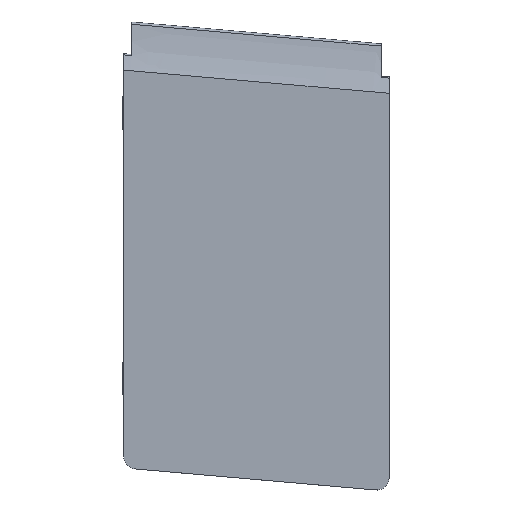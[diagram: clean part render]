
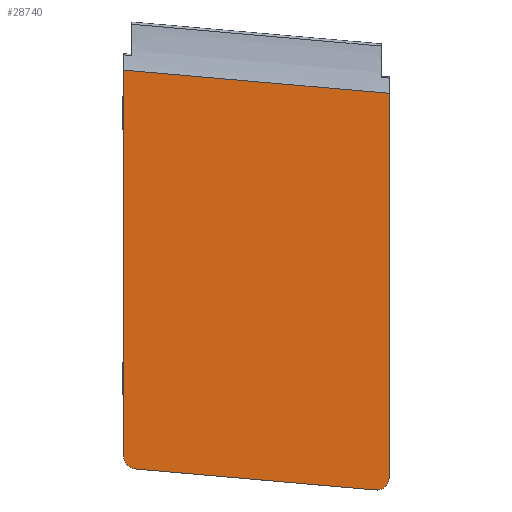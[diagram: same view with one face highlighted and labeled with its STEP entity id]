
A CAD part, top view. The second image highlights one B-rep face of the part: STEP entity #28740.
In plain terms, the highlighted planar face has unit normal (0, 0, 1).
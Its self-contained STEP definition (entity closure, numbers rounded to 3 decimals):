
#28170=CARTESIAN_POINT('',(-28.9,24.5,98.117));
#28180=DIRECTION('',(0.,-0.,1.));
#28190=DIRECTION('',(0.,1.,0.));
#28200=AXIS2_PLACEMENT_3D('',#28170,#28180,#28190);
#28210=PLANE('',#28200);
#28220=CARTESIAN_POINT('',(3.7,0.,98.117));
#28230=DIRECTION('',(0.,-1.,0.));
#28240=VECTOR('',#28230,1.);
#28250=LINE('',#28220,#28240);
#28260=CARTESIAN_POINT('',(3.7,65.635,
98.117));
#28270=VERTEX_POINT('',#28260);
#28280=CARTESIAN_POINT('',(3.7,18.272,
98.117));
#28290=VERTEX_POINT('',#28280);
#28300=EDGE_CURVE('',#28270,#28290,#28250,.T.);
#28310=ORIENTED_EDGE('',*,*,#28300,.F.);
#28320=CARTESIAN_POINT('',(2.2,18.272,
98.117));
#28330=DIRECTION('',(0.,0.,-1.));
#28340=DIRECTION('',(-1.,0.,0.));
#28350=AXIS2_PLACEMENT_3D('',#28320,#28330,#28340);
#28360=CIRCLE('',#28350,1.5);
#28370=CARTESIAN_POINT('',(2.069,16.778,
98.117));
#28380=VERTEX_POINT('',#28370);
#28390=EDGE_CURVE('',#28290,#28380,#28360,.T.);
#28400=ORIENTED_EDGE('',*,*,#28390,.F.);
#28410=CARTESIAN_POINT('',(0.,16.959,98.117));
#28420=DIRECTION('',(-0.996,0.087,0.));
#28430=VECTOR('',#28420,1.);
#28440=LINE('',#28410,#28430);
#28450=CARTESIAN_POINT('',(-27.631,19.376,
98.117));
#28460=VERTEX_POINT('',#28450);
#28470=EDGE_CURVE('',#28380,#28460,#28440,.T.);
#28480=ORIENTED_EDGE('',*,*,#28470,.F.);
#28490=CARTESIAN_POINT('',(-27.5,20.87,
98.117));
#28500=DIRECTION('',(0.,0.,1.));
#28510=DIRECTION('',(1.,0.,0.));
#28520=AXIS2_PLACEMENT_3D('',#28490,#28500,#28510);
#28530=CIRCLE('',#28520,1.5);
#28540=CARTESIAN_POINT('',(-29.,20.87,
98.117));
#28550=VERTEX_POINT('',#28540);
#28560=EDGE_CURVE('',#28550,#28460,#28530,.T.);
#28570=ORIENTED_EDGE('',*,*,#28560,.T.);
#28580=CARTESIAN_POINT('',(-29.,0.,98.117));
#28590=DIRECTION('',(0.,1.,0.));
#28600=VECTOR('',#28590,1.);
#28610=LINE('',#28580,#28600);
#28620=CARTESIAN_POINT('',(-29.,68.496,
98.117));
#28630=VERTEX_POINT('',#28620);
#28640=EDGE_CURVE('',#28550,#28630,#28610,.T.);
#28650=ORIENTED_EDGE('',*,*,#28640,.F.);
#28660=CARTESIAN_POINT('',(-17.259,67.469,
98.117));
#28670=DIRECTION('',(-0.996,0.087,
0.));
#28680=VECTOR('',#28670,1.);
#28690=LINE('',#28660,#28680);
#28700=EDGE_CURVE('',#28270,#28630,#28690,.T.);
#28710=ORIENTED_EDGE('',*,*,#28700,.T.);
#28720=EDGE_LOOP('',(#28710,#28650,#28570,#28480,#28400,#28310));
#28730=FACE_OUTER_BOUND('',#28720,.T.);
#28740=ADVANCED_FACE('',(#28730),#28210,.T.);
